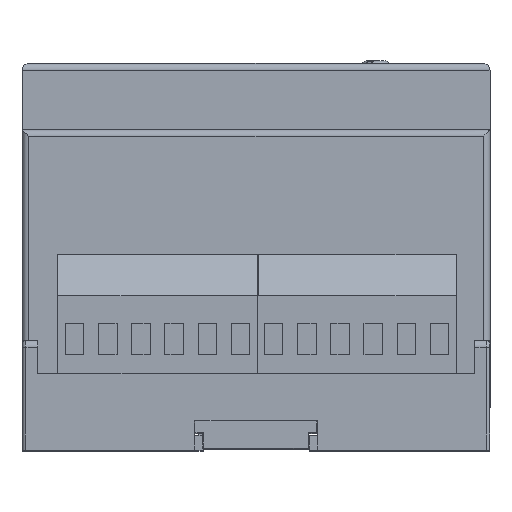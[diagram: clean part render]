
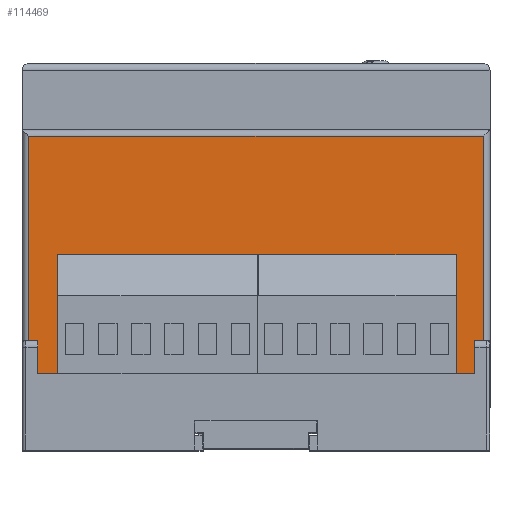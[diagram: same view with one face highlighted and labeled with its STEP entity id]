
A CAD part, top view. The second image highlights one B-rep face of the part: STEP entity #114469.
In plain terms, the highlighted planar face has unit normal (0, 0, 1).
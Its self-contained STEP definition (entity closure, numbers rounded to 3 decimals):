
#1559 = VERTEX_POINT ( 'NONE', #49768 ) ;
#3329 = CARTESIAN_POINT ( 'NONE',  ( 1.5, -6.5, 0. ) ) ;
#3556 = LINE ( 'NONE', #12409, #27961 ) ;
#3988 = ORIENTED_EDGE ( 'NONE', *, *, #154680, .T. ) ;
#5768 = CARTESIAN_POINT ( 'NONE',  ( 1.5, -5., 0. ) ) ;
#7067 = ORIENTED_EDGE ( 'NONE', *, *, #48435, .T. ) ;
#7265 = VECTOR ( 'NONE', #62450, 1000. ) ;
#10035 = ORIENTED_EDGE ( 'NONE', *, *, #177278, .T. ) ;
#12409 = CARTESIAN_POINT ( 'NONE',  ( 67.5, -5., 0. ) ) ;
#12988 = LINE ( 'NONE', #27635, #159898 ) ;
#17606 = EDGE_CURVE ( 'NONE', #137563, #112242, #45021, .T. ) ;
#21750 = CARTESIAN_POINT ( 'NONE',  ( 1., -9., 0. ) ) ;
#26667 = DIRECTION ( 'NONE',  ( 0.707, -0.707, 0. ) ) ;
#26786 = PLANE ( 'NONE',  #127808 ) ;
#27389 = LINE ( 'NONE', #147903, #65225 ) ;
#27635 = CARTESIAN_POINT ( 'NONE',  ( 1., 31.8, 0. ) ) ;
#27961 = VECTOR ( 'NONE', #26667, 1000. ) ;
#33356 = CARTESIAN_POINT ( 'NONE',  ( 70.5, -9., 0. ) ) ;
#34319 = DIRECTION ( 'NONE',  ( -1., 0., 0. ) ) ;
#35293 = DIRECTION ( 'NONE',  ( 0.707, 0.707, 0. ) ) ;
#39814 = VECTOR ( 'NONE', #67381, 1000. ) ;
#42003 = VERTEX_POINT ( 'NONE', #106706 ) ;
#44690 = VERTEX_POINT ( 'NONE', #93294 ) ;
#45021 = LINE ( 'NONE', #119031, #7265 ) ;
#48435 = EDGE_CURVE ( 'NONE', #99036, #137563, #12988, .T. ) ;
#48661 = VERTEX_POINT ( 'NONE', #62411 ) ;
#49768 = CARTESIAN_POINT ( 'NONE',  ( 69.5, -9., 0. ) ) ;
#50353 = ORIENTED_EDGE ( 'NONE', *, *, #87927, .F. ) ;
#53074 = CARTESIAN_POINT ( 'NONE',  ( 69.5, 31.8, 0. ) ) ;
#55400 = DIRECTION ( 'NONE',  ( -1., 0., 0. ) ) ;
#55691 = CARTESIAN_POINT ( 'NONE',  ( 1.5, -9., 0. ) ) ;
#62411 = CARTESIAN_POINT ( 'NONE',  ( 67.5, -5., 0. ) ) ;
#62450 = DIRECTION ( 'NONE',  ( 1., 0., 0. ) ) ;
#65077 = ORIENTED_EDGE ( 'NONE', *, *, #162377, .T. ) ;
#65225 = VECTOR ( 'NONE', #35293, 1000. ) ;
#67381 = DIRECTION ( 'NONE',  ( 0., 1., 0. ) ) ;
#67913 = CARTESIAN_POINT ( 'NONE',  ( 1., 30.8, 0. ) ) ;
#68328 = EDGE_CURVE ( 'NONE', #169139, #112242, #114062, .T. ) ;
#70007 = LINE ( 'NONE', #5768, #183536 ) ;
#76591 = DIRECTION ( 'NONE',  ( -1., 0., 0. ) ) ;
#82653 = ORIENTED_EDGE ( 'NONE', *, *, #183331, .T. ) ;
#84810 = DIRECTION ( 'NONE',  ( 0., -1., 0. ) ) ;
#87927 = EDGE_CURVE ( 'NONE', #48661, #44690, #70007, .T. ) ;
#87932 = EDGE_CURVE ( 'NONE', #125748, #99036, #134597, .T. ) ;
#91807 = VECTOR ( 'NONE', #111577, 1000. ) ;
#93294 = CARTESIAN_POINT ( 'NONE',  ( 3., -5., 0. ) ) ;
#99036 = VERTEX_POINT ( 'NONE', #67913 ) ;
#101380 = CARTESIAN_POINT ( 'NONE',  ( 69.5, 30.8, 0. ) ) ;
#102795 = VERTEX_POINT ( 'NONE', #139920 ) ;
#104033 = DIRECTION ( 'NONE',  ( 0., -1., 0. ) ) ;
#104267 = DIRECTION ( 'NONE',  ( 1., 0., 0. ) ) ;
#105236 = CARTESIAN_POINT ( 'NONE',  ( 0., 30.8, 0. ) ) ;
#106706 = CARTESIAN_POINT ( 'NONE',  ( 69., -9., 0. ) ) ;
#108344 = LINE ( 'NONE', #175573, #146141 ) ;
#111577 = DIRECTION ( 'NONE',  ( 0., -1., 0. ) ) ;
#112242 = VERTEX_POINT ( 'NONE', #55691 ) ;
#113397 = ORIENTED_EDGE ( 'NONE', *, *, #87932, .T. ) ;
#113520 = ORIENTED_EDGE ( 'NONE', *, *, #68328, .F. ) ;
#114062 = LINE ( 'NONE', #182505, #91807 ) ;
#114469 = ADVANCED_FACE ( 'NONE', ( #154404 ), #26786, .F. ) ;
#115097 = VECTOR ( 'NONE', #104267, 1000. ) ;
#116548 = EDGE_LOOP ( 'NONE', ( #7067, #149980, #113520, #10035, #50353, #3988, #65077, #82653, #130418, #113397 ) ) ;
#119031 = CARTESIAN_POINT ( 'NONE',  ( 1.5, -9., 0. ) ) ;
#119602 = LINE ( 'NONE', #33356, #115097 ) ;
#125748 = VERTEX_POINT ( 'NONE', #101380 ) ;
#126313 = CARTESIAN_POINT ( 'NONE',  ( 0., 31.8, 0. ) ) ;
#127808 = AXIS2_PLACEMENT_3D ( 'NONE', #126313, #140597, #55400 ) ;
#130418 = ORIENTED_EDGE ( 'NONE', *, *, #139111, .T. ) ;
#134597 = LINE ( 'NONE', #105236, #141184 ) ;
#137563 = VERTEX_POINT ( 'NONE', #21750 ) ;
#139111 = EDGE_CURVE ( 'NONE', #1559, #125748, #153367, .T. ) ;
#139920 = CARTESIAN_POINT ( 'NONE',  ( 69., -6.5, 0. ) ) ;
#140597 = DIRECTION ( 'NONE',  ( 0., 0., -1. ) ) ;
#141184 = VECTOR ( 'NONE', #34319, 1000. ) ;
#146141 = VECTOR ( 'NONE', #104033, 1000. ) ;
#147903 = CARTESIAN_POINT ( 'NONE',  ( 1.5, -6.5, 0. ) ) ;
#149980 = ORIENTED_EDGE ( 'NONE', *, *, #17606, .T. ) ;
#153367 = LINE ( 'NONE', #53074, #39814 ) ;
#154404 = FACE_OUTER_BOUND ( 'NONE', #116548, .T. ) ;
#154680 = EDGE_CURVE ( 'NONE', #48661, #102795, #3556, .T. ) ;
#159898 = VECTOR ( 'NONE', #84810, 1000. ) ;
#162377 = EDGE_CURVE ( 'NONE', #102795, #42003, #108344, .T. ) ;
#169139 = VERTEX_POINT ( 'NONE', #3329 ) ;
#175573 = CARTESIAN_POINT ( 'NONE',  ( 69., -5., 0. ) ) ;
#177278 = EDGE_CURVE ( 'NONE', #169139, #44690, #27389, .T. ) ;
#182505 = CARTESIAN_POINT ( 'NONE',  ( 1.5, -5., 0. ) ) ;
#183331 = EDGE_CURVE ( 'NONE', #42003, #1559, #119602, .T. ) ;
#183536 = VECTOR ( 'NONE', #76591, 1000. ) ;
